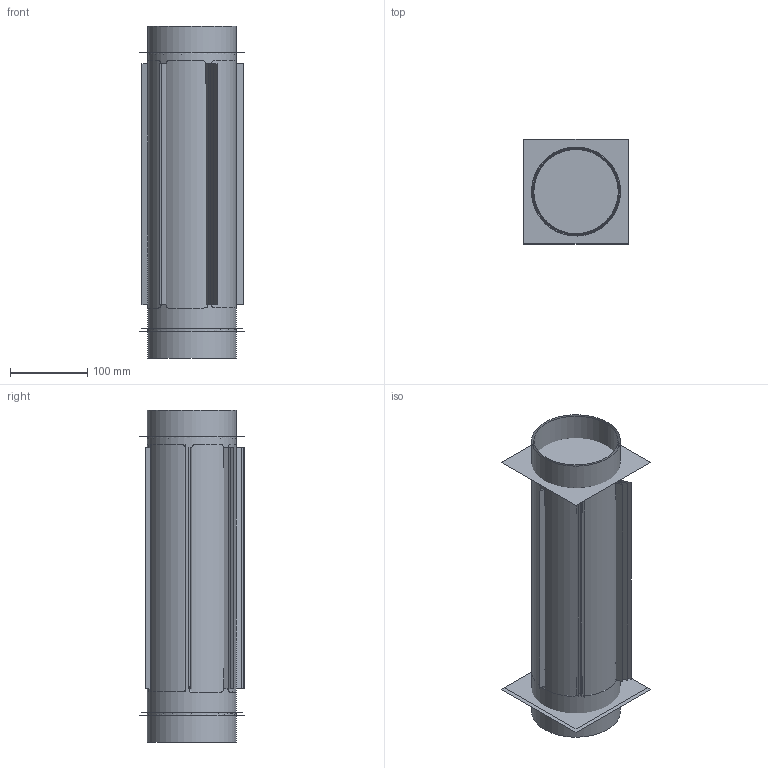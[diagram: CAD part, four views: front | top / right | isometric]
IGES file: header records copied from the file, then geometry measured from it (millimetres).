
Global section: file name: C:\Users\utente\Desktop\3d sito\BAMBU\BAMBU h 36.igs; native system: Rhinoceros ( Mar  9 2011 ); preprocessor: Trout Lake IGES 012 Mar  9 2011; date: 170517.150333; units: millimetre
Bounding box: 135.6 x 136.1 x 429.6 mm (x, y, z)
Surface area: 811273.4 mm2 (no closed solid volume)
Topology: 0 solids, 0 shells, 76 faces, 333 edges, 342 vertices
Faces by surface type: bspline 76
